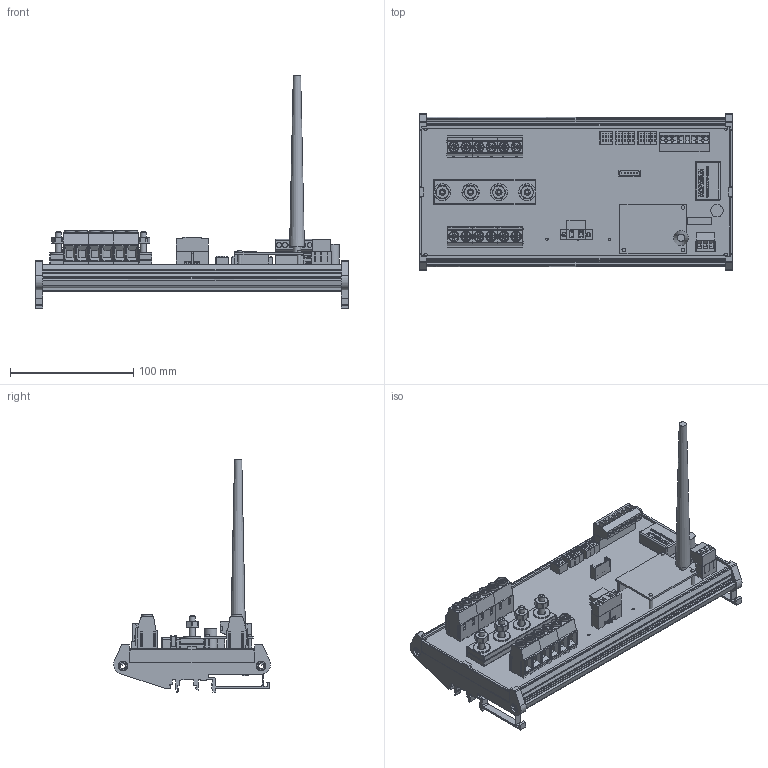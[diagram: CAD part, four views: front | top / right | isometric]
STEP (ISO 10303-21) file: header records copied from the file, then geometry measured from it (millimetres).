
FILE_DESCRIPTION(('FreeCAD Model'),'2;1');
FILE_NAME('C:/3D Files/Stringhe/ST0N/ST0N1225 WR/ST0N1225 WR.step', '2023-01-16T10:04:17',('Author'),(''), 'Open CASCADE STEP processor 7.3','FreeCAD','Unknown');
FILE_SCHEMA(('AUTOMOTIVE_DESIGN { 1 0 10303 214 1 1 1 1 }'));
Length unit declared in the file: millimetre
Products named in the file (46): ST0N1225_WR; Mstb_3P_F; Mstb_3Pc_M; AmpModu_6P_M; DipSwitch4; Stampato; Dado6MA003; Dado6MA004; Dado6MA005; Dado6MA006; Rondella6; Rondella007; Rondella008; Rondella009; CH_01-02; CH_03-04; CH_05-06; CH_07-08; CH_09-10; CH_11-12; CN3_M; Profilo_254x128; CN3_F; IB2405LS-1W; ELNA_470_uF_35_V; VTBSE-6x35; VTBSE-6x031; VTBSE-6x032; VTBSE-6x033; Barra_8.2a_cm; Barra_8.2a_cm001; Barra_8.2a_cm002; Mstb_8P_F; Mstb_8Pc_M; DipSwitch005; DipSwitch006; DipSwitch007; DipSwitch008; Spacer-001; Antenna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
Assembly tree (45 placements, depth 2):
  ST0N1225_WR
    Mstb_3P_F
    Mstb_3Pc_M
    AmpModu_6P_M
    DipSwitch4
    Stampato
    Dado6MA003
    Dado6MA004
    Dado6MA005
    Dado6MA006
    Rondella6
    Rondella007
    Rondella008
    Rondella009
    CH_01-02
    CH_03-04
    CH_05-06
    CH_07-08
    CH_09-10
    CH_11-12
    CN3_M
    Profilo_254x128
    CN3_F
    IB2405LS-1W
    ELNA_470_uF_35_V
    VTBSE-6x35
    VTBSE-6x031
    VTBSE-6x032
    VTBSE-6x033
    Barra_8.2a_cm
    Barra_8.2a_cm001
    Barra_8.2a_cm002
    Mstb_8P_F
    Mstb_8Pc_M
    DipSwitch005
    DipSwitch006
    DipSwitch007
    DipSwitch008
    Spacer-001
    Antenna
    Base_Antenna
    E108_Module
    Spacer-003
    Spacer-002
    Strip_7x1_e108
    WRB2403ZP-6WR003
Bounding box: 254 x 127.59 x 188.79 mm (x, y, z)
Volume: 259896.9 mm3; surface area: 266336 mm2
Topology: 73 solids, 112 shells, 3930 faces, 12536 edges, 13802 vertices
Faces by surface type: plane 2813, cylinder 692, bspline 217, cone 84, torus 70, sphere 52, extrusion 2
Full cylindrical faces by diameter (mm): 0.5 x4, 0.75 x52, 1 x10, 1.5 x11, 1.6 x2, 1.8 x2, 2.05 x2, 2.5 x2, 3.1 x3, 3.3 x2, 3.5 x2, 3.8 x2, 4 x15, 4.3 x2, 4.917 x4, 5 x8, 6 x1, 6.6 x4, 7 x12, 7.2 x12, 7.5 x12, 7.9 x4, 8.66 x12, 9.202 x2, 10 x5, 14 x4
Entity records: 316063 total; most frequent: CARTESIAN_POINT 73478, DIRECTION 38192, VECTOR 25159, LINE 25157, ORIENTED_EDGE 20873, PCURVE 20873, DEFINITIONAL_REPRESENTATION 20873, EDGE_CURVE 10799
